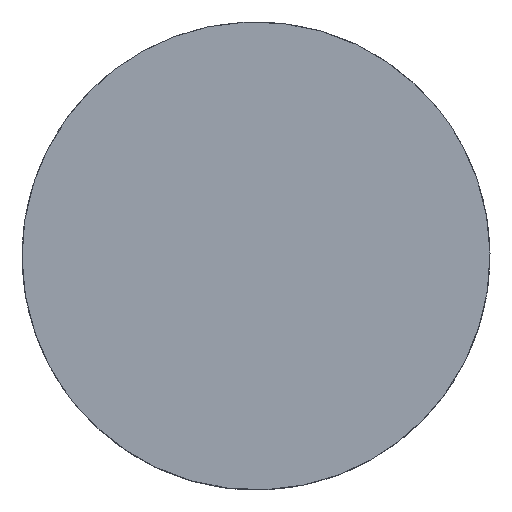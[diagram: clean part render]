
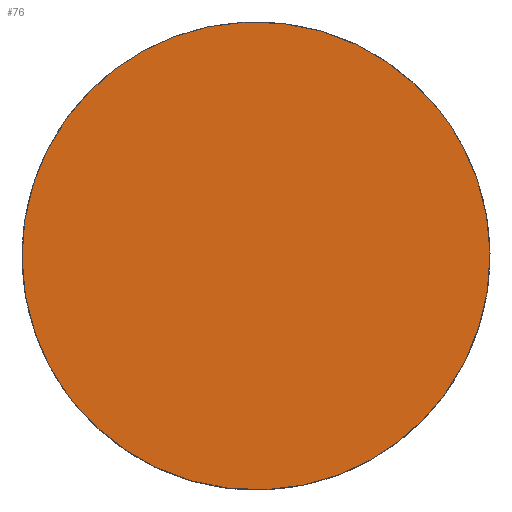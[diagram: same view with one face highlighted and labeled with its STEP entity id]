
A CAD part, top view. The second image highlights one B-rep face of the part: STEP entity #76.
In plain terms, the highlighted planar face has unit normal (0, 0, 1).
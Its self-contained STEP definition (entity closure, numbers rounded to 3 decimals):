
#76=ADVANCED_FACE('',(#137),#888,.T.);
#137=FACE_OUTER_BOUND('',#198,.T.);
#198=EDGE_LOOP('',(#459,#460));
#459=ORIENTED_EDGE('',*,*,#623,.T.);
#460=ORIENTED_EDGE('',*,*,#631,.T.);
#623=EDGE_CURVE('',#868,#872,#780,.T.);
#631=EDGE_CURVE('',#872,#868,#786,.T.);
#780=(
BOUNDED_CURVE()
B_SPLINE_CURVE(2,(#4026,#4027,#4028,#4029,#4030),.UNSPECIFIED.,.F.,.F.)
B_SPLINE_CURVE_WITH_KNOTS((3,2,3),(0.,260.752,521.503),
 .UNSPECIFIED.)
CURVE()
GEOMETRIC_REPRESENTATION_ITEM()
RATIONAL_B_SPLINE_CURVE((1.,0.707,1.,0.707,1.))
REPRESENTATION_ITEM('')
);
#786=(
BOUNDED_CURVE()
B_SPLINE_CURVE(2,(#4069,#4070,#4071,#4072,#4073),.UNSPECIFIED.,.F.,.F.)
B_SPLINE_CURVE_WITH_KNOTS((3,2,3),(521.503,782.255,1043.007),
 .UNSPECIFIED.)
CURVE()
GEOMETRIC_REPRESENTATION_ITEM()
RATIONAL_B_SPLINE_CURVE((1.,0.707,1.,0.707,1.))
REPRESENTATION_ITEM('')
);
#868=VERTEX_POINT('',#3955);
#872=VERTEX_POINT('',#3959);
#888=PLANE('',#969);
#969=AXIS2_PLACEMENT_3D('',#3864,#989,$);
#989=DIRECTION('',(0.,0.,1.));
#3864=CARTESIAN_POINT('',(-272.709,-272.709,450.));
#3955=CARTESIAN_POINT('',(128.978,104.502,450.));
#3959=CARTESIAN_POINT('',(-128.977,-104.502,450.));
#4026=CARTESIAN_POINT('',(128.978,104.502,450.));
#4027=CARTESIAN_POINT('',(24.477,233.48,450.));
#4028=CARTESIAN_POINT('',(-104.501,128.978,450.));
#4029=CARTESIAN_POINT('',(-233.479,24.476,450.));
#4030=CARTESIAN_POINT('',(-128.977,-104.502,450.));
#4069=CARTESIAN_POINT('',(-128.977,-104.502,450.));
#4070=CARTESIAN_POINT('',(-24.476,-233.479,450.));
#4071=CARTESIAN_POINT('',(104.502,-128.978,450.));
#4072=CARTESIAN_POINT('',(233.48,-24.476,450.));
#4073=CARTESIAN_POINT('',(128.978,104.502,450.));
